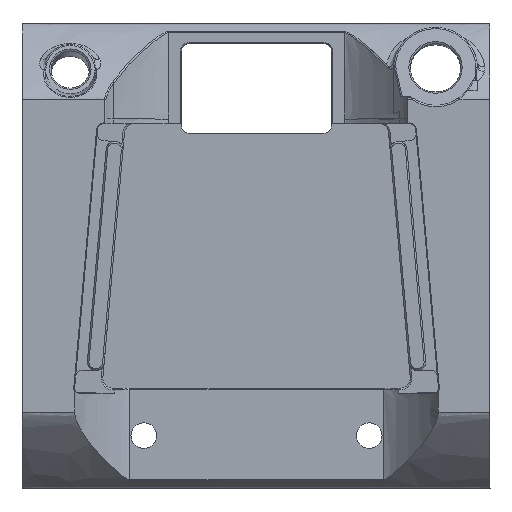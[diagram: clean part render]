
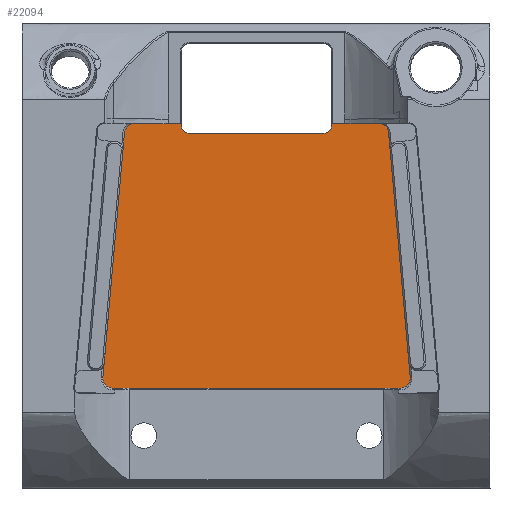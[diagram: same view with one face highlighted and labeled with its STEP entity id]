
A CAD part, top view. The second image highlights one B-rep face of the part: STEP entity #22094.
In plain terms, the highlighted planar face has unit normal (0, 0, 1).
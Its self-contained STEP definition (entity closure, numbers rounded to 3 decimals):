
#1177=DIRECTION('',(1.,0.,0.));
#1178=VECTOR('',#1177,89.892);
#1179=CARTESIAN_POINT('',(-44.779,-41.227,400.727));
#1180=LINE('',#1179,#1178);
#5476=CARTESIAN_POINT('',(-23.766,41.727,400.727));
#5477=DIRECTION('',(0.,0.,1.));
#5478=DIRECTION('',(0.,-1.,0.));
#5479=AXIS2_PLACEMENT_3D('',#5476,#5477,#5478);
#5481=DIRECTION('',(0.,-1.,0.));
#5482=VECTOR('',#5481,1.);
#5483=CARTESIAN_POINT('',(-23.266,41.727,400.727));
#5484=LINE('',#5483,#5482);
#5485=CARTESIAN_POINT('',(-20.766,40.727,400.727));
#5486=DIRECTION('',(0.,0.,1.));
#5487=DIRECTION('',(-1.,0.,0.));
#5488=AXIS2_PLACEMENT_3D('',#5485,#5486,#5487);
#5490=CARTESIAN_POINT('',(21.1,40.727,400.727));
#5491=DIRECTION('',(0.,0.,1.));
#5492=DIRECTION('',(0.,-1.,0.));
#5493=AXIS2_PLACEMENT_3D('',#5490,#5491,#5492);
#5495=DIRECTION('',(0.,1.,0.));
#5496=VECTOR('',#5495,1.);
#5497=CARTESIAN_POINT('',(23.6,40.727,400.727));
#5498=LINE('',#5497,#5496);
#5499=CARTESIAN_POINT('',(24.1,41.727,400.727));
#5500=DIRECTION('',(0.,0.,1.));
#5501=DIRECTION('',(-1.,0.,0.));
#5502=AXIS2_PLACEMENT_3D('',#5499,#5500,#5501);
#5504=DIRECTION('',(1.,0.,0.));
#5505=VECTOR('',#5504,14.263);
#5506=CARTESIAN_POINT('',(24.1,41.227,400.727));
#5507=LINE('',#5506,#5505);
#5508=CARTESIAN_POINT('',(38.363,38.227,400.727));
#5509=DIRECTION('',(0.,0.,-1.));
#5510=DIRECTION('',(0.,1.,0.));
#5511=AXIS2_PLACEMENT_3D('',#5508,#5509,#5510);
#5513=DIRECTION('',(0.088,-0.996,0.));
#5514=VECTOR('',#5513,76.751);
#5515=CARTESIAN_POINT('',(41.351,38.491,400.727));
#5516=LINE('',#5515,#5514);
#5517=CARTESIAN_POINT('',(45.113,-38.227,400.727));
#5518=DIRECTION('',(0.,0.,-1.));
#5519=DIRECTION('',(0.996,0.088,0.));
#5520=AXIS2_PLACEMENT_3D('',#5517,#5518,#5519);
#5522=CARTESIAN_POINT('',(-44.779,-38.227,400.727));
#5523=DIRECTION('',(0.,0.,-1.));
#5524=DIRECTION('',(0.,-1.,0.));
#5525=AXIS2_PLACEMENT_3D('',#5522,#5523,#5524);
#5527=DIRECTION('',(0.088,0.996,0.));
#5528=VECTOR('',#5527,76.751);
#5529=CARTESIAN_POINT('',(-47.767,-37.963,400.727));
#5530=LINE('',#5529,#5528);
#5531=CARTESIAN_POINT('',(-38.029,38.227,400.727));
#5532=DIRECTION('',(0.,0.,-1.));
#5533=DIRECTION('',(-0.996,0.088,0.));
#5534=AXIS2_PLACEMENT_3D('',#5531,#5532,#5533);
#5598=DIRECTION('',(-1.,0.,0.));
#5599=VECTOR('',#5598,14.263);
#5600=CARTESIAN_POINT('',(-23.766,41.227,400.727));
#5601=LINE('',#5600,#5599);
#6932=DIRECTION('',(-1.,0.,0.));
#6933=VECTOR('',#6932,41.866);
#6934=CARTESIAN_POINT('',(21.1,38.227,400.727));
#6935=LINE('',#6934,#6933);
#11638=CARTESIAN_POINT('',(-44.779,-41.227,400.727));
#11639=VERTEX_POINT('',#11638);
#11640=CARTESIAN_POINT('',(45.113,-41.227,400.727));
#11641=VERTEX_POINT('',#11640);
#12333=CARTESIAN_POINT('',(48.101,-37.963,400.727));
#12334=VERTEX_POINT('',#12333);
#12335=CARTESIAN_POINT('',(41.351,38.491,400.727));
#12336=VERTEX_POINT('',#12335);
#12394=CARTESIAN_POINT('',(-23.766,41.227,400.727));
#12395=CARTESIAN_POINT('',(-38.029,41.227,400.727));
#12396=VERTEX_POINT('',#12394);
#12397=VERTEX_POINT('',#12395);
#12398=CARTESIAN_POINT('',(-23.266,41.727,400.727));
#12399=VERTEX_POINT('',#12398);
#12400=CARTESIAN_POINT('',(-23.266,40.727,400.727));
#12401=VERTEX_POINT('',#12400);
#12402=CARTESIAN_POINT('',(-20.766,38.227,400.727));
#12403=VERTEX_POINT('',#12402);
#12404=CARTESIAN_POINT('',(21.1,38.227,400.727));
#12405=VERTEX_POINT('',#12404);
#12406=CARTESIAN_POINT('',(23.6,40.727,400.727));
#12407=VERTEX_POINT('',#12406);
#12408=CARTESIAN_POINT('',(23.6,41.727,400.727));
#12409=VERTEX_POINT('',#12408);
#12410=CARTESIAN_POINT('',(24.1,41.227,400.727));
#12411=VERTEX_POINT('',#12410);
#12412=CARTESIAN_POINT('',(38.363,41.227,400.727));
#12413=VERTEX_POINT('',#12412);
#12414=CARTESIAN_POINT('',(-47.767,-37.963,400.727));
#12415=VERTEX_POINT('',#12414);
#12416=CARTESIAN_POINT('',(-41.018,38.491,400.727));
#12417=VERTEX_POINT('',#12416);
#22058=CARTESIAN_POINT('',(0.,41.227,400.727));
#22059=DIRECTION('',(0.,0.,-1.));
#22060=DIRECTION('',(-1.,0.,0.));
#22061=AXIS2_PLACEMENT_3D('',#22058,#22059,#22060);
#22062=PLANE('',#22061);
#22064=ORIENTED_EDGE('',*,*,#22063,.F.);
#22066=ORIENTED_EDGE('',*,*,#22065,.T.);
#22068=ORIENTED_EDGE('',*,*,#22067,.T.);
#22070=ORIENTED_EDGE('',*,*,#22069,.T.);
#22072=ORIENTED_EDGE('',*,*,#22071,.F.);
#22074=ORIENTED_EDGE('',*,*,#22073,.T.);
#22076=ORIENTED_EDGE('',*,*,#22075,.T.);
#22078=ORIENTED_EDGE('',*,*,#22077,.T.);
#22080=ORIENTED_EDGE('',*,*,#22079,.T.);
#22082=ORIENTED_EDGE('',*,*,#22081,.T.);
#22083=ORIENTED_EDGE('',*,*,#21992,.T.);
#22084=ORIENTED_EDGE('',*,*,#22052,.T.);
#22085=ORIENTED_EDGE('',*,*,#14916,.F.);
#22087=ORIENTED_EDGE('',*,*,#22086,.T.);
#22089=ORIENTED_EDGE('',*,*,#22088,.T.);
#22091=ORIENTED_EDGE('',*,*,#22090,.T.);
#22092=EDGE_LOOP('',(#22064,#22066,#22068,#22070,#22072,#22074,#22076,#22078,
#22080,#22082,#22083,#22084,#22085,#22087,#22089,#22091));
#22093=FACE_OUTER_BOUND('',#22092,.F.);
#22094=ADVANCED_FACE('',(#22093),#22062,.F.);
#5480=CIRCLE('',#5479,0.5);
#5489=CIRCLE('',#5488,2.5);
#5494=CIRCLE('',#5493,2.5);
#5503=CIRCLE('',#5502,0.5);
#5512=CIRCLE('',#5511,3.);
#5521=CIRCLE('',#5520,3.);
#5526=CIRCLE('',#5525,3.);
#5535=CIRCLE('',#5534,3.);
#14916=EDGE_CURVE('',#11639,#11641,#1180,.T.);
#21992=EDGE_CURVE('',#12336,#12334,#5516,.T.);
#22052=EDGE_CURVE('',#12334,#11641,#5521,.T.);
#22063=EDGE_CURVE('',#12396,#12397,#5601,.T.);
#22065=EDGE_CURVE('',#12396,#12399,#5480,.T.);
#22067=EDGE_CURVE('',#12399,#12401,#5484,.T.);
#22069=EDGE_CURVE('',#12401,#12403,#5489,.T.);
#22071=EDGE_CURVE('',#12405,#12403,#6935,.T.);
#22073=EDGE_CURVE('',#12405,#12407,#5494,.T.);
#22075=EDGE_CURVE('',#12407,#12409,#5498,.T.);
#22077=EDGE_CURVE('',#12409,#12411,#5503,.T.);
#22079=EDGE_CURVE('',#12411,#12413,#5507,.T.);
#22081=EDGE_CURVE('',#12413,#12336,#5512,.T.);
#22086=EDGE_CURVE('',#11639,#12415,#5526,.T.);
#22088=EDGE_CURVE('',#12415,#12417,#5530,.T.);
#22090=EDGE_CURVE('',#12417,#12397,#5535,.T.);
